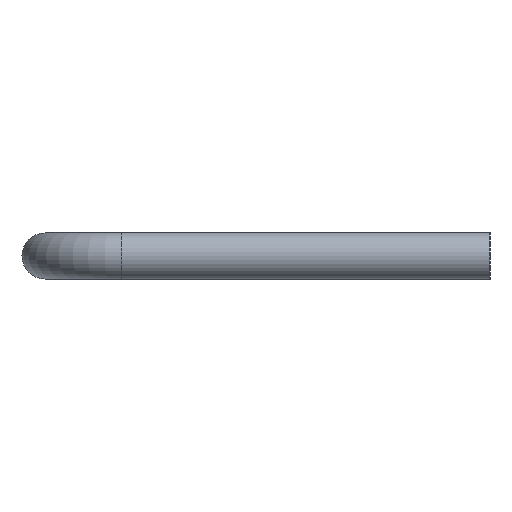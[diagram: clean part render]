
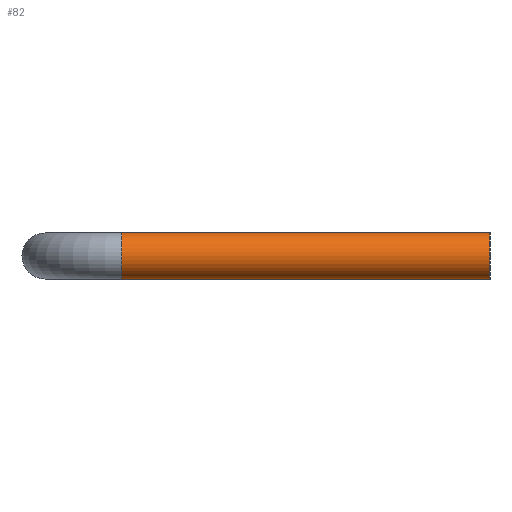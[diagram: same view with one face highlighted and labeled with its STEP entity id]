
A CAD part, front view. The second image highlights one B-rep face of the part: STEP entity #82.
In plain terms, the highlighted cylindrical face has radius 1.5 mm (diameter 3 mm), a full revolution.
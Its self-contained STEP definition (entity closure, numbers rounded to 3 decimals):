
#14 = CARTESIAN_POINT ( 'NONE',  ( -24., 0., -1.5 ) ) ;
#19 = EDGE_CURVE ( 'NONE', #43, #43, #171, .T. ) ;
#22 = ORIENTED_EDGE ( 'NONE', *, *, #177, .F. ) ;
#24 = CYLINDRICAL_SURFACE ( 'NONE', #71, 1.5 ) ;
#28 = CARTESIAN_POINT ( 'NONE',  ( 0., 0., -1.5 ) ) ;
#35 = EDGE_LOOP ( 'NONE', ( #22 ) ) ;
#43 = VERTEX_POINT ( 'NONE', #14 ) ;
#54 = CARTESIAN_POINT ( 'NONE',  ( -24., 0., 0. ) ) ;
#58 = FACE_OUTER_BOUND ( 'NONE', #35, .T. ) ;
#71 = AXIS2_PLACEMENT_3D ( 'NONE', #205, #173, #175 ) ;
#77 = VERTEX_POINT ( 'NONE', #28 ) ;
#82 = ADVANCED_FACE ( 'NONE', ( #139, #58 ), #24, .T. ) ;
#95 = DIRECTION ( 'NONE',  ( 0., 0., -1. ) ) ;
#97 = DIRECTION ( 'NONE',  ( 1., 0., 0. ) ) ;
#118 = AXIS2_PLACEMENT_3D ( 'NONE', #176, #97, #95 ) ;
#123 = DIRECTION ( 'NONE',  ( 0., 0., -1. ) ) ;
#130 = CIRCLE ( 'NONE', #118, 1.5 ) ;
#134 = ORIENTED_EDGE ( 'NONE', *, *, #19, .T. ) ;
#139 = FACE_OUTER_BOUND ( 'NONE', #141, .T. ) ;
#141 = EDGE_LOOP ( 'NONE', ( #134 ) ) ;
#148 = AXIS2_PLACEMENT_3D ( 'NONE', #54, #208, #123 ) ;
#171 = CIRCLE ( 'NONE', #148, 1.5 ) ;
#173 = DIRECTION ( 'NONE',  ( -1., 0., 0. ) ) ;
#175 = DIRECTION ( 'NONE',  ( 0., -1., 0. ) ) ;
#176 = CARTESIAN_POINT ( 'NONE',  ( 0., 0., 0. ) ) ;
#177 = EDGE_CURVE ( 'NONE', #77, #77, #130, .T. ) ;
#205 = CARTESIAN_POINT ( 'NONE',  ( 0., 0., 0. ) ) ;
#208 = DIRECTION ( 'NONE',  ( 1., 0., 0. ) ) ;
